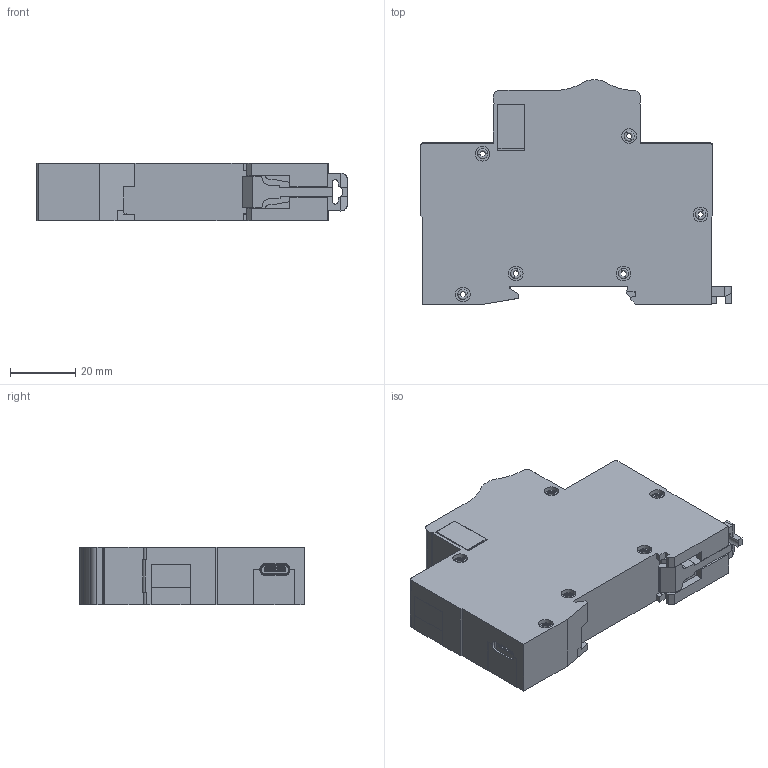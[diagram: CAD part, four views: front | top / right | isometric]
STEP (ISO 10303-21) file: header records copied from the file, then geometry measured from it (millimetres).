
FILE_DESCRIPTION (( 'STEP AP214' ), '1' );
FILE_NAME ('DF-TMB ETH 籵捅耀輸.step', '2023-12-13T06:32:02', ( '' ), ( '' ), 'SwSTEP 2.0', 'SolidWorks 2018', '' );
FILE_SCHEMA (( 'AUTOMOTIVE_DESIGN' ));
Length unit declared in the file: millimetre
Products named in the file (1): DF-TMB ETH 籵捅耀輸
Bounding box: 95.12 x 68.78 x 17.6 mm (x, y, z)
Surface area: 51358.5 mm2 (no closed solid volume)
Topology: 0 solids, 40 shells, 3779 faces, 10424 edges, 6834 vertices
Faces by surface type: plane 2608, cylinder 773, bspline 298, cone 52, torus 48
Entity records: 172779 total; most frequent: CARTESIAN_POINT 36206, ORIENTED_EDGE 20752, DIRECTION 17783, EDGE_CURVE 10421, LINE 7931, VECTOR 7931, VERTEX_POINT 6834, AXIS2_PLACEMENT_3D 4926
